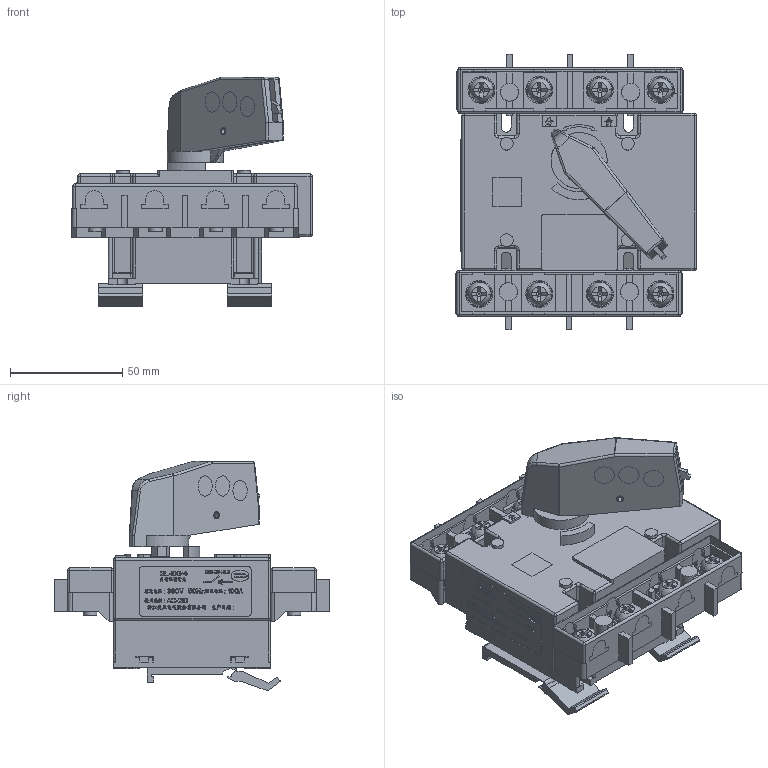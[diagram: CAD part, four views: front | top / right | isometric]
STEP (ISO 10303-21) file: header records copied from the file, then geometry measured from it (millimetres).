
FILE_DESCRIPTION (( 'STEP AP214' ), '1' );
FILE_NAME ('GL-100 4P.STEP', '2026-03-13T09:24:20', ( '' ), ( '' ), 'SwSTEP 2.0', 'SolidWorks 2024', '' );
FILE_SCHEMA (( 'AUTOMOTIVE_DESIGN' ));
Length unit declared in the file: millimetre
Products named in the file (3): GL-100 4P; polyus; GL-100 3P_4P
Assembly tree (3 placements, depth 2):
  GL-100 4P
    GL-100 3P_4P
    polyus  x2
Bounding box: 107.25 x 123 x 102.21 mm (x, y, z)
Volume: 190446.4 mm3; surface area: 134540.5 mm2
Topology: 3 solids, 3 shells, 6298 faces, 17800 edges, 11661 vertices
Faces by surface type: plane 5611, cylinder 529, sphere 79, bspline 34, torus 28, cone 17
Full cylindrical faces by diameter (mm): 6 x2
Entity records: 201701 total; most frequent: CARTESIAN_POINT 39222, ORIENTED_EDGE 35246, DIRECTION 31126, EDGE_CURVE 17623, LINE 15986, VECTOR 15986, VERTEX_POINT 11593, AXIS2_PLACEMENT_3D 7570
